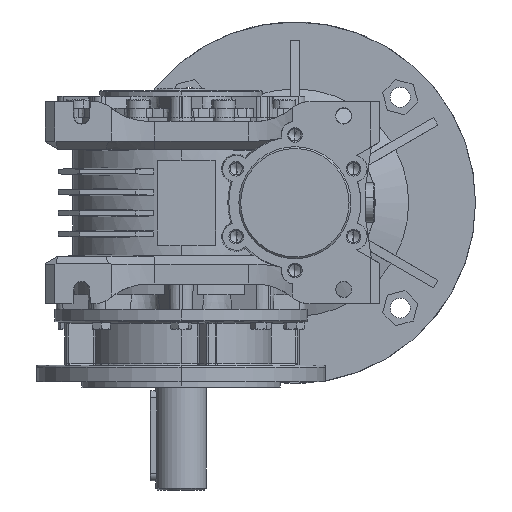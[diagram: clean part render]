
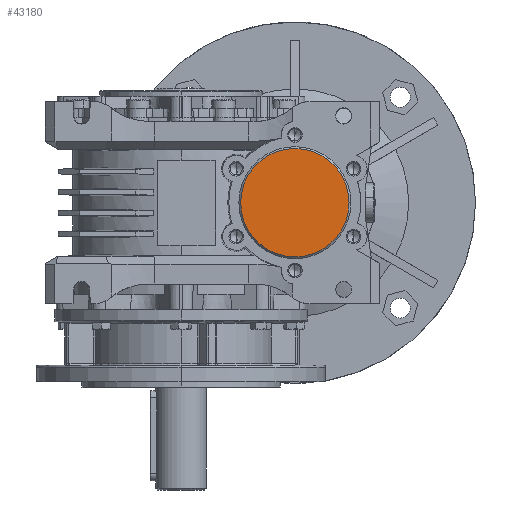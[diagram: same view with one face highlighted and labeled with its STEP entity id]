
A CAD part, left-side view. The second image highlights one B-rep face of the part: STEP entity #43180.
In plain terms, the highlighted planar face has unit normal (-1, 0, 0).
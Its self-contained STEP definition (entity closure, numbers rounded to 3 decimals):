
#5162 = DIRECTION ( 'NONE',  ( 0., 0., 1. ) ) ;
#5606 = CIRCLE ( 'NONE', #9075, 30. ) ;
#6820 = DIRECTION ( 'NONE',  ( -1., 0., 0. ) ) ;
#8092 = CARTESIAN_POINT ( 'NONE',  ( -75., -63., 30. ) ) ;
#8355 = ORIENTED_EDGE ( 'NONE', *, *, #28917, .T. ) ;
#9075 = AXIS2_PLACEMENT_3D ( 'NONE', #33315, #27894, #60074 ) ;
#14891 = FACE_OUTER_BOUND ( 'NONE', #16277, .T. ) ;
#16259 = AXIS2_PLACEMENT_3D ( 'NONE', #95382, #6820, #39545 ) ;
#16277 = EDGE_LOOP ( 'NONE', ( #49567, #8355 ) ) ;
#21488 = CIRCLE ( 'NONE', #86534, 30. ) ;
#27894 = DIRECTION ( 'NONE',  ( -1., 0., 0. ) ) ;
#28917 = EDGE_CURVE ( 'NONE', #69875, #35977, #5606, .T. ) ;
#30898 = CARTESIAN_POINT ( 'NONE',  ( -75., -63., 0. ) ) ;
#31648 = CARTESIAN_POINT ( 'NONE',  ( -75., -63., -30. ) ) ;
#33315 = CARTESIAN_POINT ( 'NONE',  ( -75., -63., 0. ) ) ;
#35977 = VERTEX_POINT ( 'NONE', #31648 ) ;
#39545 = DIRECTION ( 'NONE',  ( 0., 0., 1. ) ) ;
#43180 = ADVANCED_FACE ( 'NONE', ( #14891 ), #88347, .T. ) ;
#45961 = DIRECTION ( 'NONE',  ( -1., 0., 0. ) ) ;
#49567 = ORIENTED_EDGE ( 'NONE', *, *, #90543, .T. ) ;
#60074 = DIRECTION ( 'NONE',  ( 0., 0., 1. ) ) ;
#69875 = VERTEX_POINT ( 'NONE', #8092 ) ;
#86534 = AXIS2_PLACEMENT_3D ( 'NONE', #30898, #45961, #5162 ) ;
#88347 = PLANE ( 'NONE',  #16259 ) ;
#90543 = EDGE_CURVE ( 'NONE', #35977, #69875, #21488, .T. ) ;
#95382 = CARTESIAN_POINT ( 'NONE',  ( -75., -63., 0. ) ) ;
